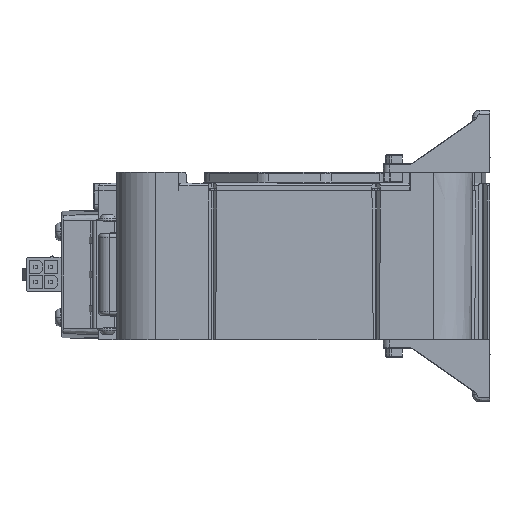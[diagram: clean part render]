
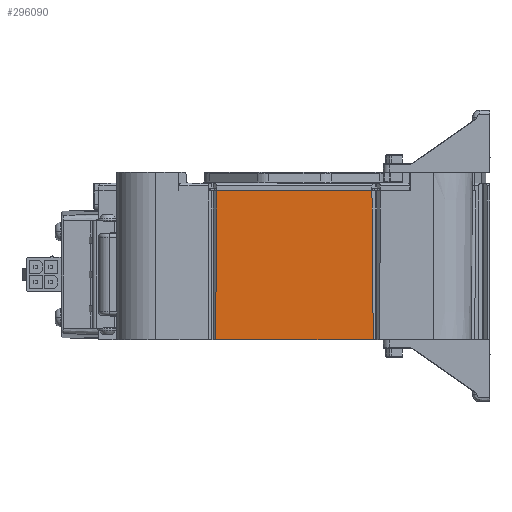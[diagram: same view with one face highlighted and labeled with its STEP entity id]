
A CAD part, left-side view. The second image highlights one B-rep face of the part: STEP entity #296090.
In plain terms, the highlighted planar face has unit normal (-1, 0, -0.009).
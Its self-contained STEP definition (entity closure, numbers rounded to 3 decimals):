
#154600=CARTESIAN_POINT('',(-49.264,23.425,-12.7));
#154610=VERTEX_POINT('',#154600);
#154640=CARTESIAN_POINT('',(-49.264,0.,-12.7));
#154650=DIRECTION('',(0.,-1.,0.));
#154660=VECTOR('',#154650,1.);
#154670=LINE('',#154640,#154660);
#154680=CARTESIAN_POINT('',(-49.264,-20.904,-12.7));
#154690=VERTEX_POINT('',#154680);
#154700=EDGE_CURVE('',#154610,#154690,#154670,.T.);
#295790=CARTESIAN_POINT('',(-49.628,33.81,29.1));
#295800=DIRECTION('',(-1.,0.,-0.009));
#295810=DIRECTION('',(0.,1.,0.));
#295820=AXIS2_PLACEMENT_3D('',#295790,#295800,#295810);
#295830=PLANE('',#295820);
#295840=CARTESIAN_POINT('',(-49.628,0.,29.1));
#295850=DIRECTION('',(0.,1.,0.));
#295860=VECTOR('',#295850,1.);
#295870=LINE('',#295840,#295860);
#295880=CARTESIAN_POINT('',(-49.628,-20.54,
29.1));
#295890=VERTEX_POINT('',#295880);
#295900=CARTESIAN_POINT('',(-49.628,23.06,
29.1));
#295910=VERTEX_POINT('',#295900);
#295920=EDGE_CURVE('',#295890,#295910,#295870,.T.);
#295930=ORIENTED_EDGE('',*,*,#295920,.T.);
#295940=CARTESIAN_POINT('',(-49.628,-20.54,29.1));
#295950=DIRECTION('',(-0.009,0.009,
1.));
#295960=VECTOR('',#295950,1.);
#295970=LINE('',#295940,#295960);
#295980=EDGE_CURVE('',#154690,#295890,#295970,.T.);
#295990=ORIENTED_EDGE('',*,*,#295980,.T.);
#296000=ORIENTED_EDGE('',*,*,#154700,.T.);
#296010=CARTESIAN_POINT('',(-49.628,23.06,29.1));
#296020=DIRECTION('',(0.009,0.009,
-1.));
#296030=VECTOR('',#296020,1.);
#296040=LINE('',#296010,#296030);
#296050=EDGE_CURVE('',#295910,#154610,#296040,.T.);
#296060=ORIENTED_EDGE('',*,*,#296050,.T.);
#296070=EDGE_LOOP('',(#296060,#296000,#295990,#295930));
#296080=FACE_OUTER_BOUND('',#296070,.T.);
#296090=ADVANCED_FACE('',(#296080),#295830,.T.);
